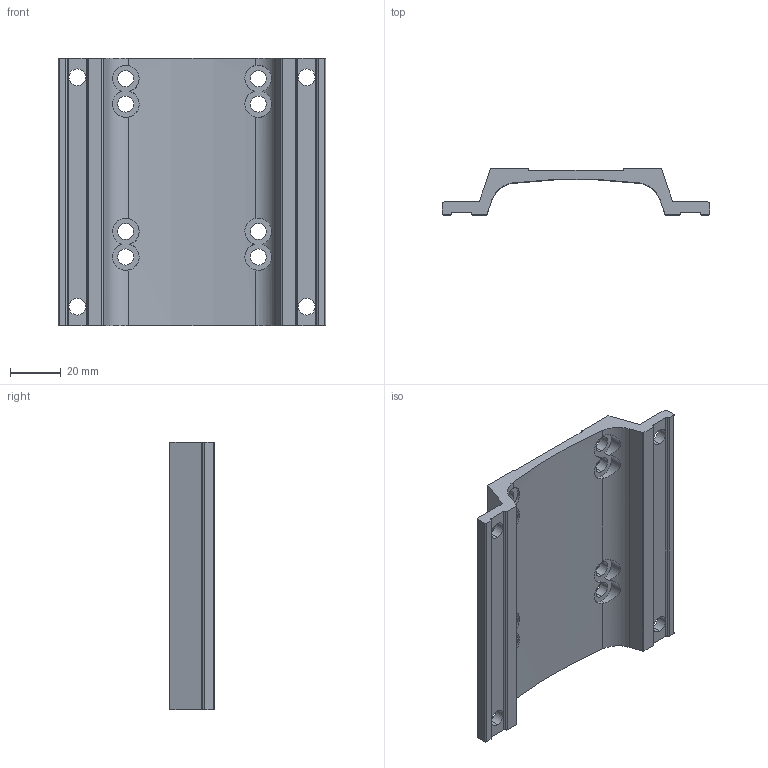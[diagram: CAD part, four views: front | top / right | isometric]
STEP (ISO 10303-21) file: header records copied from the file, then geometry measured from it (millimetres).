
FILE_DESCRIPTION (( 'STEP AP214' ), '1' );
FILE_NAME ('Fuß 2238616.STEP', '2017-08-25T06:13:53', ( 'gfeller' ), ( '' ), 'SwSTEP 2.0', 'SolidWorks 2017', '' );
FILE_SCHEMA (( 'AUTOMOTIVE_DESIGN' ));
Length unit declared in the file: millimetre
Products named in the file (1): Fuﾟ 2238616
Bounding box: 105 x 18 x 105 mm (x, y, z)
Volume: 56607.7 mm3; surface area: 28506.8 mm2
Topology: 1 solids, 1 shells, 82 faces, 240 edges, 160 vertices
Faces by surface type: cylinder 59, plane 23
Entity records: 3360 total; most frequent: CARTESIAN_POINT 1031, DIRECTION 492, ORIENTED_EDGE 480, EDGE_CURVE 240, AXIS2_PLACEMENT_3D 189, VERTEX_POINT 160, LINE 114, VECTOR 114
